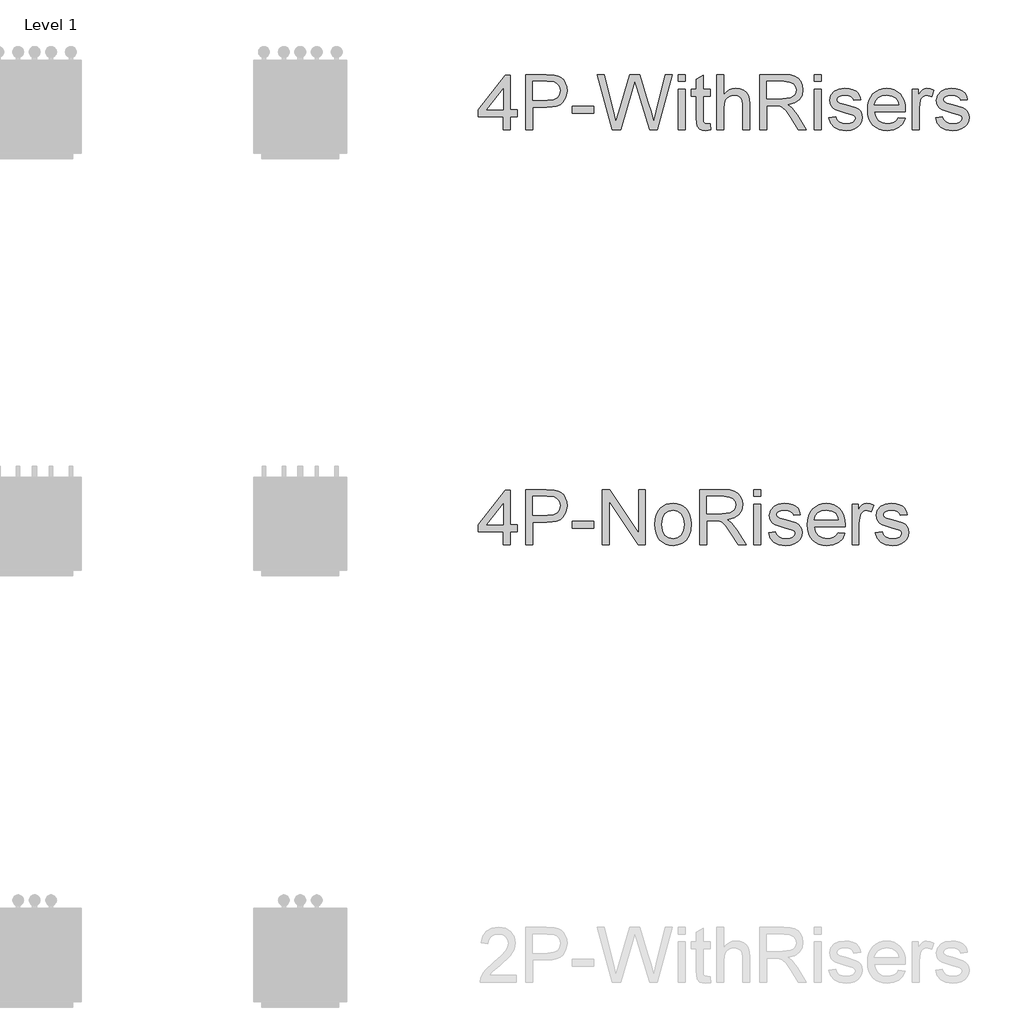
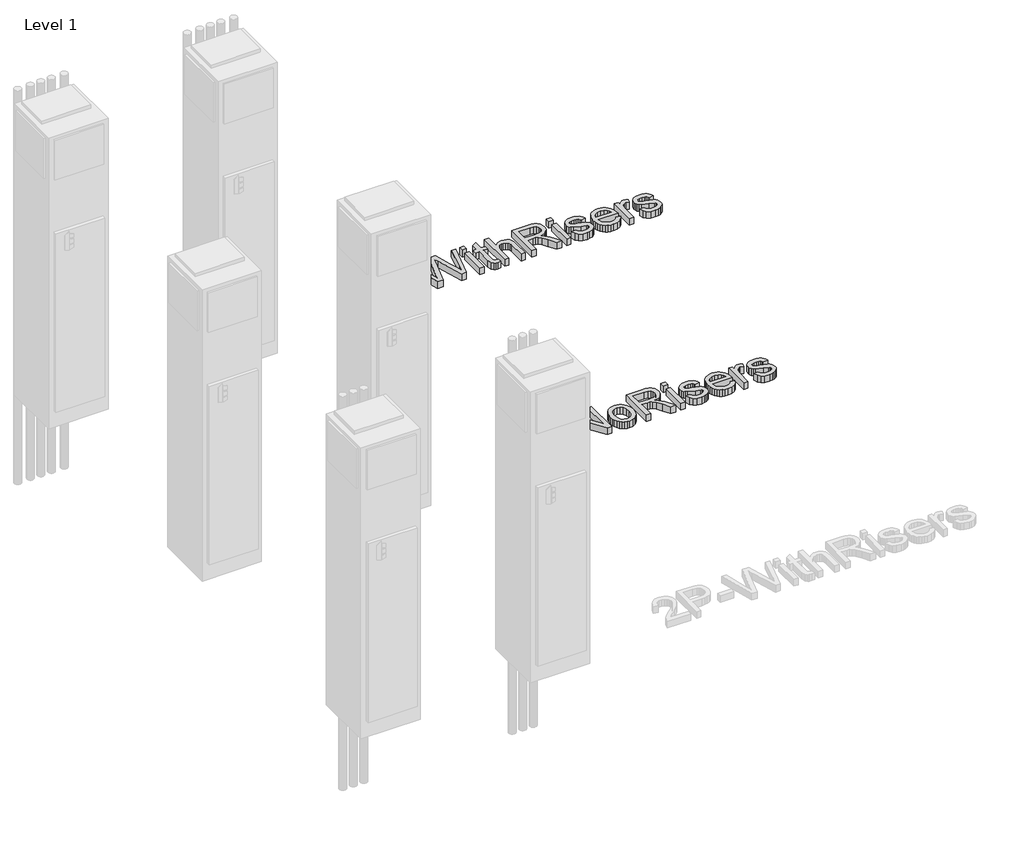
# One storey, part 2 of 2: 2 proxies.
"""IFC4 building model written with IfcOpenShell, lengths in millimetres."""

from ifc_helpers import new_model, si_unit, origin, origin_with_axes, place, context, project, spatial, polyline, outline, extrude, element, save

model = new_model("IFC4")

# Units and contexts
model_context = context("Model", 3, world=origin())
ifc_project = project(units=[si_unit("LENGTHUNIT", "METRE", prefix="MILLI")], contexts=[model_context])

# Site, building, storey
site = spatial("IfcSite", under=ifc_project)
building = spatial("IfcBuilding", under=site)
storey = spatial("IfcBuildingStorey", under=building, Name="Level 1", Elevation=0.0)

# Proxies
placement = place(None, origin())
element("IfcBuildingElementProxy", 1, Name="24\" Arial", ObjectType="24\" Arial", at=placement, inside=storey, context=model_context, shape_type="SweptSolid", body=[
    extrude(outline(polyline([(-15005.2539283, 2874.9607137), (-15005.2539283, 2934.7636108), (-15120.8728628, 2934.7636108), (-15120.8728628, 2966.6584893), (-14997.2802087, 3126.1328817), (-14973.3590498, 3126.1328817), (-14973.3590498, 2966.6584893), (-14941.4641714, 2966.6584893), (-14941.4641714, 2934.7636108), (-14973.3590498, 2934.7636108), (-14973.3590498, 2874.9607137), (-15005.2539283, 2874.9607137)]), holes=[polyline([(-15005.2539283, 2966.6584893), (-15005.2539283, 3065.2086802), (-15081.6272115, 2966.6584893), (-15005.2539283, 2966.6584893)])]), origin_with_axes(), (0.0, 0.0, 1.0), 50.8),
    extrude(outline(polyline([(-14901.5955733, 2874.9607137), (-14901.5955733, 3130.1197415), (-14807.0322422, 3130.1197415), (-14768.9078953, 3127.6902488), (-14751.9092332, 3123.1505236), (-14737.9162897, 3115.7608167), (-14726.6487386, 3105.186294), (-14717.826254, 3091.0921216), (-14712.1262903, 3074.4672277), (-14710.2263024, 3056.3005403), (-14715.3578271, 3026.2277814), (-14730.752401, 3001.1697445), (-14743.0809084, 2991.3038239), (-14759.5403321, 2984.2567377), (-14780.130672, 2980.028486), (-14804.8519282, 2978.6190687), (-14869.7006948, 2978.6190687), (-14869.7006948, 2874.9607137), (-14901.5955733, 2874.9607137)]), holes=[polyline([(-14869.7006948, 3010.5139472), (-14802.9830877, 3010.5139472), (-14774.7013009, 3013.4417974), (-14756.0128956, 3022.2253479), (-14745.5941096, 3036.3195203), (-14742.1211809, 3055.179236), (-14744.1691187, 3069.5070134), (-14750.3129319, 3081.5921822), (-14759.7895108, 3090.6872062), (-14771.8357454, 3096.044549), (-14803.7306239, 3098.224863), (-14869.7006948, 3098.224863), (-14869.7006948, 3010.5139472)])]), origin_with_axes(), (0.0, 0.0, 1.0), 50.8),
    extrude(outline(polyline([(-14686.3051436, 2950.7110501), (-14686.3051436, 2982.6059285), (-14586.6336484, 2982.6059285), (-14586.6336484, 2950.7110501), (-14686.3051436, 2950.7110501)])), origin_with_axes(), (0.0, 0.0, 1.0), 50.8),
    extrude(outline(polyline([(-14501.1030465, 2874.9607137), (-14570.6862091, 3130.1197415), (-14537.7946157, 3130.1197415), (-14497.4276601, 2962.4224507), (-14484.9687232, 2910.6555679), (-14471.6376607, 2956.442161), (-14421.0543769, 3130.1197415), (-14373.648122, 3130.1197415), (-14336.8942581, 3004.2221841), (-14321.1492766, 2957.5011707), (-14309.5468916, 2910.6555679), (-14297.4617228, 2960.9273783), (-14256.7209992, 3130.1197415), (-14223.8294057, 3130.1197415), (-14293.474863, 2874.9607137), (-14327.5500555, 2874.9607137), (-14388.7234357, 3071.8119168), (-14397.2578074, 3099.2838726), (-14406.8511888, 3066.2053952), (-14462.6049315, 2874.9607137), (-14501.1030465, 2874.9607137)])), origin_with_axes(), (0.0, 0.0, 1.0), 50.8),
    extrude(outline(polyline([(-14195.9213871, 3098.224863), (-14195.9213871, 3130.1197415), (-14164.0265086, 3130.1197415), (-14164.0265086, 3098.224863), (-14195.9213871, 3098.224863)])), origin_with_axes(), (0.0, 0.0, 1.0), 50.8),
    extrude(outline(polyline([(-14195.9213871, 2874.9607137), (-14195.9213871, 3062.3431247), (-14164.0265086, 3062.3431247), (-14164.0265086, 2874.9607137), (-14195.9213871, 2874.9607137)])), origin_with_axes(), (0.0, 0.0, 1.0), 50.8),
    extrude(outline(polyline([(-14048.4075741, 2901.560544), (-14044.4207143, 2874.0262934), (-14068.2795785, 2870.9738539), (-14083.5884972, 2872.2976159), (-14095.0039982, 2876.2689021), (-14108.3350606, 2890.1606167), (-14112.1973311, 2926.3538284), (-14112.1973311, 3030.4482462), (-14136.1184899, 3030.4482462), (-14136.1184899, 3062.3431247), (-14112.1973311, 3062.3431247), (-14112.1973311, 3107.8805391), (-14080.3024526, 3126.6312391), (-14080.3024526, 3062.3431247), (-14048.4075741, 3062.3431247), (-14048.4075741, 3030.4482462), (-14080.3024526, 3030.4482462), (-14080.3024526, 2927.2882487), (-14078.6204961, 2910.842452), (-14073.1697112, 2905.017899), (-14062.2992888, 2902.8687324), (-14048.4075741, 2901.560544)])), origin_with_axes(), (0.0, 0.0, 1.0), 50.8),
    extrude(outline(polyline([(-14016.5126957, 2874.9607137), (-14016.5126957, 3130.1197415), (-13984.6178172, 3130.1197415), (-13984.6178172, 3036.3039466), (-13972.9025231, 3049.4403382), (-13959.7466644, 3058.823475), (-13945.1502411, 3064.4533572), (-13929.1132533, 3066.3299845), (-13909.8486221, 3064.2820468), (-13893.2938097, 3058.1382335), (-13880.258647, 3048.3813285), (-13871.5529648, 3035.4941157), (-13866.6472584, 3017.7868516), (-13865.0120229, 2993.569793), (-13865.0120229, 2874.9607137), (-13896.9069014, 2874.9607137), (-13896.9069014, 2990.2681747), (-13899.4454098, 3010.2336211), (-13907.060935, 3023.9073044), (-13919.3329878, 3031.8031556), (-13935.8410792, 3034.435106), (-13949.3200916, 3032.6597075), (-13961.9736994, 3027.333512), (-13972.45478, 3018.9704506), (-13979.416211, 3008.0844545), (-13983.3174157, 2993.616514), (-13984.6178172, 2974.5076195), (-13984.6178172, 2874.9607137), (-14016.5126957, 2874.9607137)])), origin_with_axes(), (0.0, 0.0, 1.0), 50.8),
    extrude(outline(polyline([(-13817.1697052, 2874.9607137), (-13817.1697052, 3130.1197415), (-13707.219587, 3130.1197415), (-13677.6685461, 3128.3988508), (-13656.1690931, 3123.2361788), (-13640.4552589, 3113.7050921), (-13628.2610744, 3098.8789572), (-13620.4353047, 3080.4942384), (-13617.8267148, 3060.2874001), (-13622.1484085, 3035.1514949), (-13635.1134897, 3014.313923), (-13657.1113002, 2999.0361516), (-13688.5311817, 2990.5796481), (-13670.4034285, 2976.9371122), (-13644.5511344, 2944.1078135), (-13602.0038649, 2874.9607137), (-13639.0692022, 2874.9607137), (-13672.272269, 2927.8489008), (-13696.2557226, 2962.8585135), (-13713.1064347, 2979.3977523), (-13728.2751904, 2985.471484), (-13746.7767117, 2986.5927883), (-13785.2748267, 2986.5927883), (-13785.2748267, 2874.9607137), (-13817.1697052, 2874.9607137)]), holes=[polyline([(-13785.2748267, 3018.4876668), (-13713.8851183, 3018.4876668), (-13677.4738752, 3023.0040314), (-13665.4977221, 3028.8753055), (-13656.7920399, 3037.4563982), (-13651.4892049, 3047.8362501), (-13649.7215932, 3059.1038011), (-13653.093293, 3074.6618986), (-13663.2083924, 3087.1987038), (-13680.6119699, 3095.4683232), (-13705.849104, 3098.224863), (-13785.2748267, 3098.224863), (-13785.2748267, 3018.4876668)])]), origin_with_axes(), (0.0, 0.0, 1.0), 50.8),
    extrude(outline(polyline([(-13565.9975372, 3098.224863), (-13565.9975372, 3130.1197415), (-13534.1026588, 3130.1197415), (-13534.1026588, 3098.224863), (-13565.9975372, 3098.224863)])), origin_with_axes(), (0.0, 0.0, 1.0), 50.8),
    extrude(outline(polyline([(-13565.9975372, 2874.9607137), (-13565.9975372, 3062.3431247), (-13534.1026588, 3062.3431247), (-13534.1026588, 2874.9607137), (-13565.9975372, 2874.9607137)])), origin_with_axes(), (0.0, 0.0, 1.0), 50.8),
    extrude(outline(polyline([(-13498.2209205, 2930.776751), (-13466.326042, 2934.7636108), (-13461.2957462, 2921.1210749), (-13451.5622018, 2911.0916307), (-13437.063114, 2904.9244569), (-13417.7361881, 2902.8687324), (-13398.6428673, 2904.7531466), (-13385.2183628, 2910.4063892), (-13377.2757905, 2918.5981402), (-13374.6282664, 2928.0980796), (-13377.2913642, 2936.2275359), (-13385.2806575, 2942.425857), (-13418.1099562, 2951.520881), (-13466.139158, 2967.1256994), (-13478.2944083, 2974.9670428), (-13487.1013193, 2985.3468947), (-13492.4508753, 2997.6033738), (-13494.2340607, 3011.0745994), (-13488.5029497, 3034.8400215), (-13472.8669839, 3052.998922), (-13452.5900641, 3062.4365667), (-13425.1492555, 3066.3299845), (-13404.3895519, 3064.7648306), (-13386.3396671, 3060.0693687), (-13371.8250056, 3052.7030223), (-13361.670972, 3043.1252145), (-13354.9431461, 3030.6273435), (-13350.7071076, 3014.500807), (-13382.601986, 3010.5139472), (-13386.62778, 3020.5511782), (-13394.5937128, 3028.1121956), (-13406.5776527, 3032.8543784), (-13422.6574682, 3034.435106), (-13440.9721054, 3032.92446), (-13453.1818636, 3028.3925217), (-13460.0498525, 3021.8515798), (-13462.3391822, 3014.313923), (-13458.5392064, 3005.032015), (-13446.6409217, 2997.9927156), (-13419.1689658, 2991.202595), (-13372.3545104, 2976.189576), (-13359.9890155, 2969.0101136), (-13350.6136655, 2959.1831272), (-13344.7034573, 2946.6774692), (-13342.7333879, 2931.4619925), (-13345.0460781, 2915.7325847), (-13351.9841486, 2900.9375971), (-13363.282847, 2888.2372683), (-13378.6774209, 2878.7918368), (-13397.2723842, 2872.9283496), (-13418.1722509, 2870.9738539), (-13450.3318818, 2874.7426823), (-13473.8014042, 2886.0491675), (-13489.4685173, 2904.7687202), (-13498.2209205, 2930.776751)])), origin_with_axes(), (0.0, 0.0, 1.0), 50.8),
    extrude(outline(polyline([(-13175.6590441, 2930.776751), (-13144.3871124, 2926.7898912), (-13155.6546635, 2903.2269268), (-13173.6344668, 2885.6131047), (-13197.9216069, 2874.6336666), (-13228.1111684, 2870.9738539), (-13247.901411, 2872.5526348), (-13265.5347001, 2877.2889775), (-13281.0110358, 2885.1828821), (-13294.3304181, 2896.2343484), (-13305.0412104, 2910.1357966), (-13312.6917763, 2926.5796466), (-13317.2821159, 2945.5658985), (-13318.8122291, 2967.0945521), (-13317.2665422, 2989.3532215), (-13312.6294816, 3008.9721538), (-13304.9010473, 3025.9513487), (-13294.0812393, 3040.2908064), (-13280.7968979, 3051.6829468), (-13265.6748632, 3059.82019), (-13248.7151353, 3064.7025359), (-13229.9177143, 3066.3299845), (-13211.7257197, 3064.7064293), (-13195.2740828, 3059.8357637), (-13180.5628038, 3051.7179876), (-13167.5918824, 3040.3531011), (-13157.0037328, 3026.0447907), (-13149.4407687, 3009.0967431), (-13144.9029903, 2989.5089583), (-13143.3903975, 2967.2814361), (-13143.5772815, 2958.6847697), (-13286.9173506, 2958.6847697), (-13281.3964842, 2934.8103318), (-13268.571566, 2917.2588045), (-13250.0622579, 2906.4662504), (-13227.4882216, 2902.8687324), (-13210.51292, 2904.5351152), (-13196.2162899, 2909.5342636), (-13184.5983313, 2918.1776511), (-13175.6590441, 2930.776751)]), holes=[polyline([(-13286.9173506, 2990.5796481), (-13175.285276, 2990.5796481), (-13179.5991829, 3007.4303603), (-13188.0556863, 3019.4843818), (-13206.6506496, 3030.697425), (-13230.0423036, 3034.435106), (-13251.5417566, 3031.452748), (-13269.3191022, 3022.505674), (-13281.6768103, 3008.5594515), (-13286.9173506, 2990.5796481)])]), origin_with_axes(), (0.0, 0.0, 1.0), 50.8),
    extrude(outline(polyline([(-13111.495519, 2874.9607137), (-13111.495519, 3062.3431247), (-13083.5875003, 3062.3431247), (-13083.5875003, 3034.6219901), (-13073.2777301, 3050.6940187), (-13063.7777907, 3060.1628108), (-13054.2467039, 3064.7881911), (-13043.8434916, 3066.3299845), (-13027.9583471, 3063.8693445), (-13011.8240238, 3056.4874244), (-13022.4764148, 3027.8941642), (-13044.9025013, 3034.435106), (-13054.4258012, 3032.8621653), (-13062.9368124, 3028.1433429), (-13069.8125882, 3020.6368334), (-13074.4301817, 3010.7008312), (-13079.6006405, 2973.4486099), (-13079.6006405, 2874.9607137), (-13111.495519, 2874.9607137)])), origin_with_axes(), (0.0, 0.0, 1.0), 50.8),
    extrude(outline(polyline([(-13003.8503042, 2930.776751), (-12971.9554257, 2934.7636108), (-12966.9251299, 2921.1210749), (-12957.1915855, 2911.0916307), (-12942.6924976, 2904.9244569), (-12923.3655718, 2902.8687324), (-12904.272251, 2904.7531466), (-12890.8477464, 2910.4063892), (-12882.9051742, 2918.5981402), (-12880.2576501, 2928.0980796), (-12882.9207478, 2936.2275359), (-12890.9100411, 2942.425857), (-12923.7393399, 2951.520881), (-12971.7685416, 2967.1256994), (-12983.923792, 2974.9670428), (-12992.730703, 2985.3468947), (-12998.080259, 2997.6033738), (-12999.8634444, 3011.0745994), (-12994.1323334, 3034.8400215), (-12978.4963676, 3052.998922), (-12958.2194478, 3062.4365667), (-12930.7786392, 3066.3299845), (-12910.0189356, 3064.7648306), (-12891.9690508, 3060.0693687), (-12877.4543893, 3052.7030223), (-12867.3003557, 3043.1252145), (-12860.5725298, 3030.6273435), (-12856.3364912, 3014.500807), (-12888.2313697, 3010.5139472), (-12892.2571637, 3020.5511782), (-12900.2230965, 3028.1121956), (-12912.2070364, 3032.8543784), (-12928.2868518, 3034.435106), (-12946.6014891, 3032.92446), (-12958.8112473, 3028.3925217), (-12965.6792362, 3021.8515798), (-12967.9685659, 3014.313923), (-12964.1685901, 3005.032015), (-12952.2703054, 2997.9927156), (-12924.7983495, 2991.202595), (-12877.9838941, 2976.189576), (-12865.6183992, 2969.0101136), (-12856.2430492, 2959.1831272), (-12850.332841, 2946.6774692), (-12848.3627716, 2931.4619925), (-12850.6754618, 2915.7325847), (-12857.6135323, 2900.9375971), (-12868.9122307, 2888.2372683), (-12884.3068046, 2878.7918368), (-12902.9017679, 2872.9283496), (-12923.8016346, 2870.9738539), (-12955.9612654, 2874.7426823), (-12979.4307878, 2886.0491675), (-12995.097901, 2904.7687202), (-13003.8503042, 2930.776751)])), origin_with_axes(), (0.0, 0.0, 1.0), 50.8),
])
element("IfcBuildingElementProxy", 2, Name="24\" Arial", ObjectType="24\" Arial", at=placement, inside=storey, context=model_context, shape_type="SweptSolid", body=[
    extrude(outline(polyline([(-15005.2539283, 953.096641), (-15005.2539283, 1012.8995381), (-15120.8728628, 1012.8995381), (-15120.8728628, 1044.7944166), (-14997.2802087, 1204.268809), (-14973.3590498, 1204.268809), (-14973.3590498, 1044.7944166), (-14941.4641714, 1044.7944166), (-14941.4641714, 1012.8995381), (-14973.3590498, 1012.8995381), (-14973.3590498, 953.096641), (-15005.2539283, 953.096641)]), holes=[polyline([(-15005.2539283, 1044.7944166), (-15005.2539283, 1143.3446075), (-15081.6272115, 1044.7944166), (-15005.2539283, 1044.7944166)])]), origin_with_axes(), (0.0, 0.0, 1.0), 50.8),
    extrude(outline(polyline([(-14901.5955733, 953.096641), (-14901.5955733, 1208.2556688), (-14807.0322422, 1208.2556688), (-14768.9078953, 1205.8261761), (-14751.9092332, 1201.2864509), (-14737.9162897, 1193.896744), (-14726.6487386, 1183.3222213), (-14717.826254, 1169.2280489), (-14712.1262903, 1152.603155), (-14710.2263024, 1134.4364676), (-14715.3578271, 1104.3637087), (-14730.752401, 1079.3056718), (-14743.0809084, 1069.4397512), (-14759.5403321, 1062.392665), (-14780.130672, 1058.1644133), (-14804.8519282, 1056.754996), (-14869.7006948, 1056.754996), (-14869.7006948, 953.096641), (-14901.5955733, 953.096641)]), holes=[polyline([(-14869.7006948, 1088.6498745), (-14802.9830877, 1088.6498745), (-14774.7013009, 1091.5777247), (-14756.0128956, 1100.3612752), (-14745.5941096, 1114.4554476), (-14742.1211809, 1133.3151633), (-14744.1691187, 1147.6429407), (-14750.3129319, 1159.7281095), (-14759.7895108, 1168.8231335), (-14771.8357454, 1174.1804763), (-14803.7306239, 1176.3607903), (-14869.7006948, 1176.3607903), (-14869.7006948, 1088.6498745)])]), origin_with_axes(), (0.0, 0.0, 1.0), 50.8),
    extrude(outline(polyline([(-14686.3051436, 1028.8469774), (-14686.3051436, 1060.7418558), (-14586.6336484, 1060.7418558), (-14586.6336484, 1028.8469774), (-14686.3051436, 1028.8469774)])), origin_with_axes(), (0.0, 0.0, 1.0), 50.8),
    extrude(outline(polyline([(-14546.7650503, 953.096641), (-14546.7650503, 1208.2556688), (-14512.6275632, 1208.2556688), (-14379.3169383, 1006.1094175), (-14379.3169383, 1208.2556688), (-14347.4220598, 1208.2556688), (-14347.4220598, 953.096641), (-14381.5595469, 953.096641), (-14514.8701718, 1155.3051869), (-14514.8701718, 953.096641), (-14546.7650503, 953.096641)])), origin_with_axes(), (0.0, 0.0, 1.0), 50.8),
    extrude(outline(polyline([(-14303.5666019, 1046.7878465), (-14301.8418178, 1071.0555195), (-14296.6674656, 1091.9670664), (-14288.0435452, 1109.5224872), (-14275.9700567, 1123.7217819), (-14250.3980887, 1139.2798793), (-14219.7802512, 1144.4659118), (-14202.1839496, 1142.8871309), (-14186.2734978, 1138.1507882), (-14172.0488959, 1130.2568836), (-14159.510144, 1119.2054172), (-14149.2762953, 1105.3701572), (-14141.9664034, 1089.1248715), (-14137.5804683, 1070.4695602), (-14136.1184899, 1049.4042232), (-14138.7037193, 1017.1822977), (-14146.4594076, 992.6537657), (-14159.1597364, 974.2846206), (-14176.5788875, 960.5408558), (-14197.2685096, 951.9675498), (-14219.7802512, 949.1097812), (-14237.6335185, 950.682722), (-14253.6919201, 955.4015443), (-14267.9554562, 963.2662482), (-14280.4241266, 974.2768337), (-14290.5489596, 988.2464167), (-14297.7809831, 1004.9881132), (-14302.1201972, 1024.5019231), (-14303.5666019, 1046.7878465)]), holes=[polyline([(-14271.6717234, 1046.8501412), (-14267.9807634, 1017.9843417), (-14256.9078832, 997.419309), (-14240.2440551, 985.108322), (-14219.7802512, 981.0046596), (-14199.4098894, 985.1316825), (-14182.7772086, 997.512751), (-14171.7043285, 1018.350323), (-14168.0133684, 1047.8468561), (-14171.727689, 1075.8716773), (-14182.8706507, 1096.156384), (-14199.5266919, 1108.467371), (-14219.7802512, 1112.5710333), (-14240.2440551, 1108.4829447), (-14256.9078832, 1096.2186787), (-14267.9807634, 1075.7003669), (-14271.6717234, 1046.8501412)])]), origin_with_axes(), (0.0, 0.0, 1.0), 50.8),
    extrude(outline(polyline([(-14096.2498918, 953.096641), (-14096.2498918, 1208.2556688), (-13986.2997737, 1208.2556688), (-13956.7487327, 1206.5347781), (-13935.2492797, 1201.3721061), (-13919.5354455, 1191.8410194), (-13907.341261, 1177.0148845), (-13899.5154913, 1158.6301657), (-13896.9069014, 1138.4233274), (-13901.2285951, 1113.2874222), (-13914.1936763, 1092.4498502), (-13936.1914868, 1077.1720789), (-13967.6113683, 1068.7155754), (-13949.4836151, 1055.0730395), (-13923.631321, 1022.2437408), (-13881.0840515, 953.096641), (-13918.1493888, 953.096641), (-13951.3524557, 1005.9848281), (-13975.3359092, 1040.9944408), (-13992.1866214, 1057.5336796), (-14007.355377, 1063.6074113), (-14025.8568983, 1064.7287156), (-14064.3550134, 1064.7287156), (-14064.3550134, 953.096641), (-14096.2498918, 953.096641)]), holes=[polyline([(-14064.3550134, 1096.6235941), (-13992.9653049, 1096.6235941), (-13956.5540618, 1101.1399587), (-13944.5779087, 1107.0112328), (-13935.8722266, 1115.5923255), (-13930.5693915, 1125.9721774), (-13928.8017799, 1137.2397284), (-13932.1734797, 1152.7978259), (-13942.2885791, 1165.3346311), (-13959.6921565, 1173.6042505), (-13984.9292906, 1176.3607903), (-14064.3550134, 1176.3607903), (-14064.3550134, 1096.6235941)])]), origin_with_axes(), (0.0, 0.0, 1.0), 50.8),
    extrude(outline(polyline([(-13845.0777239, 1176.3607903), (-13845.0777239, 1208.2556688), (-13813.1828454, 1208.2556688), (-13813.1828454, 1176.3607903), (-13845.0777239, 1176.3607903)])), origin_with_axes(), (0.0, 0.0, 1.0), 50.8),
    extrude(outline(polyline([(-13845.0777239, 953.096641), (-13845.0777239, 1140.479052), (-13813.1828454, 1140.479052), (-13813.1828454, 953.096641), (-13845.0777239, 953.096641)])), origin_with_axes(), (0.0, 0.0, 1.0), 50.8),
    extrude(outline(polyline([(-13777.3011071, 1008.9126783), (-13745.4062286, 1012.8995381), (-13740.3759329, 999.2570022), (-13730.6423884, 989.227558), (-13716.1433006, 983.0603842), (-13696.8163747, 981.0046596), (-13677.7230539, 982.8890739), (-13664.2985494, 988.5423165), (-13656.3559771, 996.7340675), (-13653.708453, 1006.2340069), (-13656.3715508, 1014.3634632), (-13664.3608441, 1020.5617843), (-13697.1901428, 1029.6568083), (-13745.2193446, 1045.2616267), (-13757.3745949, 1053.1029701), (-13766.1815059, 1063.4828219), (-13771.531062, 1075.7393011), (-13773.3142473, 1089.2105267), (-13767.5831363, 1112.9759488), (-13751.9471705, 1131.1348493), (-13731.6702507, 1140.572494), (-13704.2294422, 1144.4659118), (-13683.4697386, 1142.9007579), (-13665.4198537, 1138.205296), (-13650.9051922, 1130.8389496), (-13640.7511587, 1121.2611418), (-13634.0233327, 1108.7632708), (-13629.7872942, 1092.6367343), (-13661.6821727, 1088.6498745), (-13665.7079666, 1098.6871055), (-13673.6738994, 1106.2481229), (-13685.6578394, 1110.9903057), (-13701.7376548, 1112.5710333), (-13720.052292, 1111.0603872), (-13732.2620502, 1106.5284489), (-13739.1300392, 1099.9875071), (-13741.4193688, 1092.4498502), (-13737.6193931, 1083.1679423), (-13725.7211083, 1076.1286429), (-13698.2491525, 1069.3385223), (-13651.4346971, 1054.3255033), (-13639.0692022, 1047.1460409), (-13629.6938522, 1037.3190544), (-13623.783644, 1024.8133965), (-13621.8135746, 1009.5979198), (-13624.1262647, 993.868512), (-13631.0643352, 979.0735244), (-13642.3630336, 966.3731956), (-13657.7576075, 956.9277641), (-13676.3525709, 951.0642769), (-13697.2524375, 949.1097812), (-13729.4120684, 952.8786096), (-13752.8815908, 964.1850948), (-13768.5487039, 982.9046475), (-13777.3011071, 1008.9126783)])), origin_with_axes(), (0.0, 0.0, 1.0), 50.8),
    extrude(outline(polyline([(-13454.7392307, 1008.9126783), (-13423.4672991, 1004.9258185), (-13434.7348501, 981.3628541), (-13452.7146534, 963.749032), (-13477.0017936, 952.7695939), (-13507.1913551, 949.1097812), (-13526.9815976, 950.6885621), (-13544.6148868, 955.4249048), (-13560.0912225, 963.3188094), (-13573.4106047, 974.3702757), (-13584.121397, 988.2717239), (-13591.771963, 1004.7155739), (-13596.3623025, 1023.7018258), (-13597.8924157, 1045.2304794), (-13596.3467289, 1067.4891488), (-13591.7096683, 1087.108081), (-13583.981234, 1104.087276), (-13573.161426, 1118.4267337), (-13559.8770845, 1129.8188741), (-13544.7550498, 1137.9561173), (-13527.795322, 1142.8384632), (-13508.9979009, 1144.4659118), (-13490.8059063, 1142.8423566), (-13474.3542695, 1137.971691), (-13459.6429904, 1129.8539149), (-13446.672069, 1118.4890284), (-13436.0839194, 1104.180718), (-13428.5209553, 1087.2326704), (-13423.9831769, 1067.6448856), (-13422.4705841, 1045.4173634), (-13422.6574682, 1036.820697), (-13565.9975372, 1036.820697), (-13560.4766708, 1012.9462591), (-13547.6517526, 995.3947318), (-13529.1424445, 984.6021777), (-13506.5684082, 981.0046596), (-13489.5931067, 982.6710425), (-13475.2964766, 987.6701909), (-13463.6785179, 996.3135784), (-13454.7392307, 1008.9126783)]), holes=[polyline([(-13565.9975372, 1068.7155754), (-13454.3654626, 1068.7155754), (-13458.6793695, 1085.5662876), (-13467.1358729, 1097.6203091), (-13485.7308362, 1108.8333523), (-13509.1224903, 1112.5710333), (-13530.6219433, 1109.5886753), (-13548.3992889, 1100.6416013), (-13560.7569969, 1086.6953788), (-13565.9975372, 1068.7155754)])]), origin_with_axes(), (0.0, 0.0, 1.0), 50.8),
    extrude(outline(polyline([(-13390.5757056, 953.096641), (-13390.5757056, 1140.479052), (-13362.667687, 1140.479052), (-13362.667687, 1112.7579174), (-13352.3579167, 1128.829946), (-13342.8579773, 1138.2987381), (-13333.3268906, 1142.9241184), (-13322.9236783, 1144.4659118), (-13307.0385337, 1142.0052718), (-13290.9042104, 1134.6233517), (-13301.5566015, 1106.0300915), (-13323.9826879, 1112.5710333), (-13333.5059878, 1110.9980926), (-13342.0169991, 1106.2792702), (-13348.8927749, 1098.7727607), (-13353.5103684, 1088.8367585), (-13358.6808272, 1051.5845372), (-13358.6808272, 953.096641), (-13390.5757056, 953.096641)])), origin_with_axes(), (0.0, 0.0, 1.0), 50.8),
    extrude(outline(polyline([(-13282.9304908, 1008.9126783), (-13251.0356123, 1012.8995381), (-13246.0053165, 999.2570022), (-13236.2717721, 989.227558), (-13221.7726843, 983.0603842), (-13202.4457584, 981.0046596), (-13183.3524376, 982.8890739), (-13169.9279331, 988.5423165), (-13161.9853608, 996.7340675), (-13159.3378367, 1006.2340069), (-13162.0009345, 1014.3634632), (-13169.9902278, 1020.5617843), (-13202.8195265, 1029.6568083), (-13250.8487283, 1045.2616267), (-13263.0039786, 1053.1029701), (-13271.8108896, 1063.4828219), (-13277.1604456, 1075.7393011), (-13278.943631, 1089.2105267), (-13273.21252, 1112.9759488), (-13257.5765542, 1131.1348493), (-13237.2996344, 1140.572494), (-13209.8588259, 1144.4659118), (-13189.0991222, 1142.9007579), (-13171.0492374, 1138.205296), (-13156.5345759, 1130.8389496), (-13146.3805423, 1121.2611418), (-13139.6527164, 1108.7632708), (-13135.4166779, 1092.6367343), (-13167.3115563, 1088.6498745), (-13171.3373503, 1098.6871055), (-13179.3032831, 1106.2481229), (-13191.287223, 1110.9903057), (-13207.3670385, 1112.5710333), (-13225.6816757, 1111.0603872), (-13237.8914339, 1106.5284489), (-13244.7594229, 1099.9875071), (-13247.0487525, 1092.4498502), (-13243.2487768, 1083.1679423), (-13231.350492, 1076.1286429), (-13203.8785361, 1069.3385223), (-13157.0640807, 1054.3255033), (-13144.6985859, 1047.1460409), (-13135.3232358, 1037.3190544), (-13129.4130276, 1024.8133965), (-13127.4429582, 1009.5979198), (-13129.7556484, 993.868512), (-13136.6937189, 979.0735244), (-13147.9924173, 966.3731956), (-13163.3869912, 956.9277641), (-13181.9819545, 951.0642769), (-13202.8818212, 949.1097812), (-13235.0414521, 952.8786096), (-13258.5109745, 964.1850948), (-13274.1780876, 982.9046475), (-13282.9304908, 1008.9126783)])), origin_with_axes(), (0.0, 0.0, 1.0), 50.8),
])

save(model, "model.ifc")
